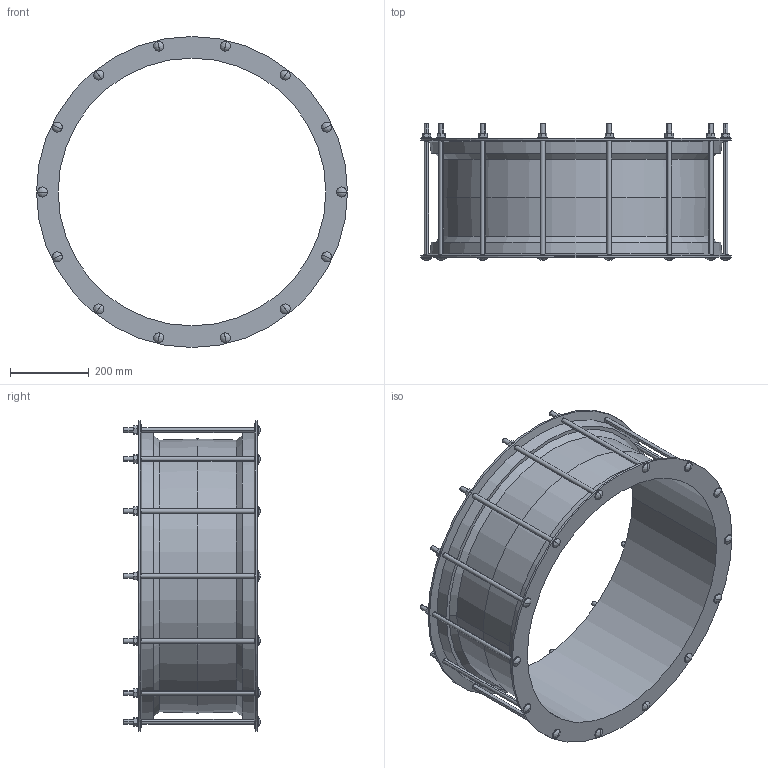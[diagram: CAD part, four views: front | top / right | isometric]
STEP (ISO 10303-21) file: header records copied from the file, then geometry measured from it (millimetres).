
FILE_DESCRIPTION((''),'2;1');
FILE_NAME('MAXIFIT_662_679','2018-12-18T',('mfairey'),('Glynwed Pipe Systems'),'CREO PARAMETRIC BY PTC INC, 2016130','CREO PARAMETRIC BY PTC INC, 2016130','');
FILE_SCHEMA(('CONFIG_CONTROL_DESIGN'));
Length unit declared in the file: millimetre
Products named in the file (1): MAXIFIT_662_679
Bounding box: 791 x 348 x 791 mm (x, y, z)
Volume: 9934007.3 mm3; surface area: 1918563.7 mm2
Topology: 1 solids, 1 shells, 292 faces, 708 edges, 444 vertices
Faces by surface type: plane 130, cylinder 118, bspline 28, cone 16
Entity records: 10586 total; most frequent: CARTESIAN_POINT 3818, DIRECTION 1370, ORIENTED_EDGE 1360, EDGE_CURVE 680, AXIS2_PLACEMENT_3D 490, VERTEX_POINT 444, VECTOR 390, LINE 390
